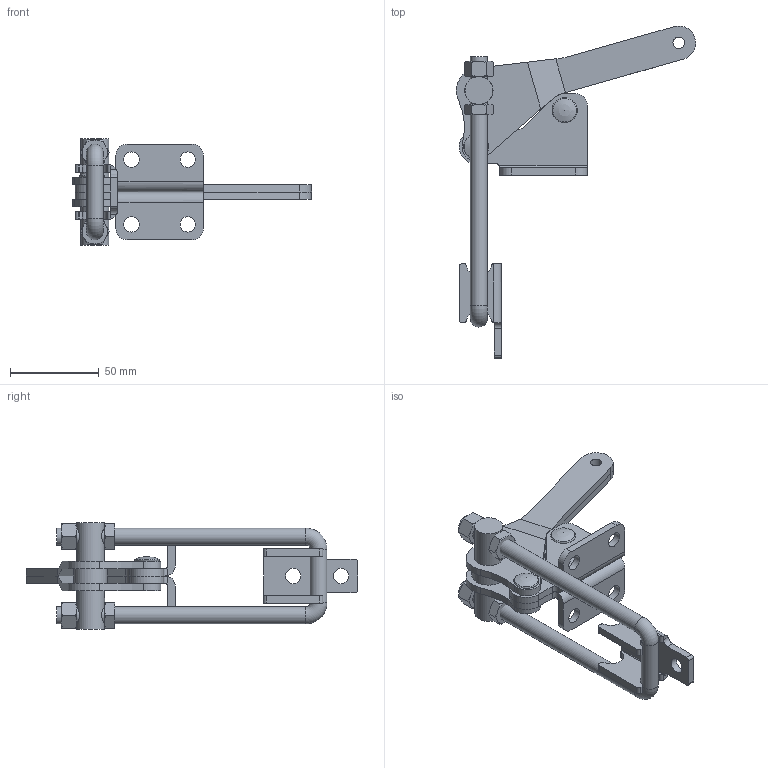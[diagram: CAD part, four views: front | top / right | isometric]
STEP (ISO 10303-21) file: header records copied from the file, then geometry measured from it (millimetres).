
FILE_DESCRIPTION((' '),'2;1');
FILE_NAME('C:\Users\Nick\Desktop\PCU-Sereis\PCU-2010\3D\PCU-2010.stp','2015-07-24T11:50:51',(' '),(' '),' ','ACIS',' ');
FILE_SCHEMA(('CONFIG_CONTROL_DESIGN'));
Length unit declared in the file: inch
Products named in the file (14): C:\Users\Nick\Desktop\PCU-Sereis\PCU-2010\3D\PCU-2010.stp; Body1; Body2; Body3; Body4; Body5; Body6; Body7; Body8; Body9; Body10; Body11; Body12; Body13
Assembly tree (13 placements, depth 2):
  C:\Users\Nick\Desktop\PCU-Sereis\PCU-2010\3D\PCU-2010.stp
    Body1
    Body2
    Body3
    Body4
    Body5
    Body6
    Body7
    Body8
    Body9
    Body10
    Body11
    Body12
    Body13
Bounding box: 134.86 x 187.22 x 60.33 mm (x, y, z)
Volume: 101342.7 mm3; surface area: 56393.1 mm2
Topology: 13 solids, 13 shells, 246 faces, 592 edges, 374 vertices
Faces by surface type: plane 104, cylinder 84, cone 52, torus 4, sphere 2
Full cylindrical faces by diameter (mm): 6.477 x2, 7.425 x4, 7.772 x1, 7.874 x1, 8.026 x6, 8.712 x6, 9.525 x3, 9.804 x2, 15.773 x2, 15.951 x2, 19.05 x1
Entity records: 9097 total; most frequent: CARTESIAN_POINT 1613, DIRECTION 1198, ORIENTED_EDGE 1096, EDGE_CURVE 548, AXIS2_PLACEMENT_3D 491, VERTEX_POINT 370, EDGE_LOOP 332, FACE_OUTER_BOUND 246
